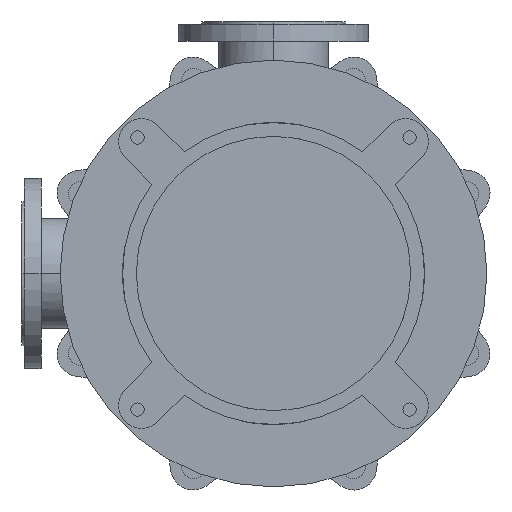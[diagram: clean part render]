
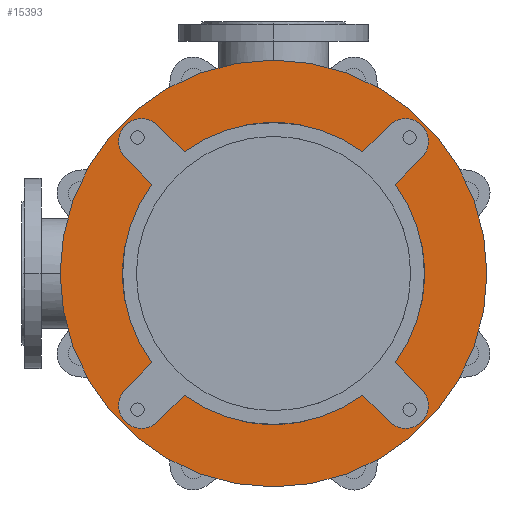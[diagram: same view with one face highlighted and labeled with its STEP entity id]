
A CAD part, front view. The second image highlights one B-rep face of the part: STEP entity #15393.
In plain terms, the highlighted planar face has unit normal (0, -1, 0).
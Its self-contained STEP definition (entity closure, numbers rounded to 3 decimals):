
#4290=CARTESIAN_POINT('',(0.,-25.,0.));
#4291=DIRECTION('',(0.,1.,0.));
#4292=DIRECTION('',(0.592,0.,-0.806));
#4293=AXIS2_PLACEMENT_3D('',#4290,#4291,#4292);
#4308=CARTESIAN_POINT('',(0.,-25.,0.));
#4309=DIRECTION('',(0.,1.,0.));
#4310=DIRECTION('',(0.806,0.,0.592));
#4311=AXIS2_PLACEMENT_3D('',#4308,#4309,#4310);
#4335=CARTESIAN_POINT('',(0.,-25.,0.));
#4336=DIRECTION('',(0.,1.,0.));
#4337=DIRECTION('',(-0.806,0.,-0.592));
#4338=AXIS2_PLACEMENT_3D('',#4335,#4336,#4337);
#4344=CARTESIAN_POINT('',(0.,-25.,0.));
#4345=DIRECTION('',(0.,1.,0.));
#4346=DIRECTION('',(-0.592,0.,0.806));
#4347=AXIS2_PLACEMENT_3D('',#4344,#4345,#4346);
#4522=CARTESIAN_POINT('',(0.,-25.,0.));
#4523=DIRECTION('',(0.,-1.,0.));
#4524=DIRECTION('',(-1.,0.,0.));
#4525=AXIS2_PLACEMENT_3D('',#4522,#4523,#4524);
#4527=CARTESIAN_POINT('',(0.,-25.,0.));
#4528=DIRECTION('',(0.,1.,0.));
#4529=DIRECTION('',(-1.,0.,0.));
#4530=AXIS2_PLACEMENT_3D('',#4527,#4528,#4529);
#4532=CARTESIAN_POINT('',(-173.241,-25.,173.241));
#4533=DIRECTION('',(0.,-1.,0.));
#4534=DIRECTION('',(0.707,0.,0.707));
#4535=AXIS2_PLACEMENT_3D('',#4532,#4533,#4534);
#4537=DIRECTION('',(0.707,0.,-0.707));
#4538=VECTOR('',#4537,49.286);
#4539=CARTESIAN_POINT('',(-194.454,-25.,152.028));
#4540=LINE('',#4539,#4538);
#4541=DIRECTION('',(-0.707,0.,-0.707));
#4542=VECTOR('',#4541,49.286);
#4543=CARTESIAN_POINT('',(-159.604,-25.,-117.178));
#4544=LINE('',#4543,#4542);
#4545=CARTESIAN_POINT('',(-173.241,-25.,-173.241));
#4546=DIRECTION('',(0.,-1.,0.));
#4547=DIRECTION('',(-0.707,0.,0.707));
#4548=AXIS2_PLACEMENT_3D('',#4545,#4546,#4547);
#4550=DIRECTION('',(0.707,0.,0.707));
#4551=VECTOR('',#4550,49.286);
#4552=CARTESIAN_POINT('',(-152.028,-25.,-194.454));
#4553=LINE('',#4552,#4551);
#4554=DIRECTION('',(0.707,0.,-0.707));
#4555=VECTOR('',#4554,49.286);
#4556=CARTESIAN_POINT('',(117.178,-25.,-159.604));
#4557=LINE('',#4556,#4555);
#4558=CARTESIAN_POINT('',(173.241,-25.,-173.241));
#4559=DIRECTION('',(0.,-1.,0.));
#4560=DIRECTION('',(-0.707,0.,-0.707));
#4561=AXIS2_PLACEMENT_3D('',#4558,#4559,#4560);
#4563=DIRECTION('',(-0.707,0.,0.707));
#4564=VECTOR('',#4563,49.286);
#4565=CARTESIAN_POINT('',(194.454,-25.,-152.028));
#4566=LINE('',#4565,#4564);
#4567=DIRECTION('',(0.707,0.,0.707));
#4568=VECTOR('',#4567,49.286);
#4569=CARTESIAN_POINT('',(159.604,-25.,117.178));
#4570=LINE('',#4569,#4568);
#4571=CARTESIAN_POINT('',(173.241,-25.,173.241));
#4572=DIRECTION('',(0.,-1.,0.));
#4573=DIRECTION('',(0.707,0.,-0.707));
#4574=AXIS2_PLACEMENT_3D('',#4571,#4572,#4573);
#4576=DIRECTION('',(-0.707,0.,-0.707));
#4577=VECTOR('',#4576,49.286);
#4578=CARTESIAN_POINT('',(152.028,-25.,194.454));
#4579=LINE('',#4578,#4577);
#4580=DIRECTION('',(-0.707,0.,0.707));
#4581=VECTOR('',#4580,49.286);
#4582=CARTESIAN_POINT('',(-117.178,-25.,159.604));
#4583=LINE('',#4582,#4581);
#8321=CARTESIAN_POINT('',(-280.,-25.,0.));
#8322=CARTESIAN_POINT('',(280.,-25.,0.));
#8323=VERTEX_POINT('',#8321);
#8324=VERTEX_POINT('',#8322);
#8345=CARTESIAN_POINT('',(-194.454,-25.,-152.028));
#8346=CARTESIAN_POINT('',(-152.028,-25.,-194.454));
#8347=VERTEX_POINT('',#8345);
#8348=VERTEX_POINT('',#8346);
#8349=CARTESIAN_POINT('',(-117.178,-25.,-159.604));
#8350=VERTEX_POINT('',#8349);
#8351=CARTESIAN_POINT('',(-159.604,-25.,-117.178));
#8352=VERTEX_POINT('',#8351);
#8361=CARTESIAN_POINT('',(152.028,-25.,-194.454));
#8362=CARTESIAN_POINT('',(194.454,-25.,-152.028));
#8363=VERTEX_POINT('',#8361);
#8364=VERTEX_POINT('',#8362);
#8365=CARTESIAN_POINT('',(159.604,-25.,-117.178));
#8366=VERTEX_POINT('',#8365);
#8367=CARTESIAN_POINT('',(117.178,-25.,-159.604));
#8368=VERTEX_POINT('',#8367);
#8377=CARTESIAN_POINT('',(194.454,-25.,152.028));
#8378=CARTESIAN_POINT('',(152.028,-25.,194.454));
#8379=VERTEX_POINT('',#8377);
#8380=VERTEX_POINT('',#8378);
#8381=CARTESIAN_POINT('',(117.178,-25.,159.604));
#8382=VERTEX_POINT('',#8381);
#8383=CARTESIAN_POINT('',(159.604,-25.,117.178));
#8384=VERTEX_POINT('',#8383);
#8393=CARTESIAN_POINT('',(-152.028,-25.,194.454));
#8394=CARTESIAN_POINT('',(-194.454,-25.,152.028));
#8395=VERTEX_POINT('',#8393);
#8396=VERTEX_POINT('',#8394);
#8397=CARTESIAN_POINT('',(-159.604,-25.,117.178));
#8398=VERTEX_POINT('',#8397);
#8399=CARTESIAN_POINT('',(-117.178,-25.,159.604));
#8400=VERTEX_POINT('',#8399);
#15353=CARTESIAN_POINT('',(0.,-25.,0.));
#15354=DIRECTION('',(0.,-1.,0.));
#15355=DIRECTION('',(-1.,0.,0.));
#15356=AXIS2_PLACEMENT_3D('',#15353,#15354,#15355);
#15357=PLANE('',#15356);
#15359=ORIENTED_EDGE('',*,*,#15358,.F.);
#15361=ORIENTED_EDGE('',*,*,#15360,.T.);
#15362=EDGE_LOOP('',(#15359,#15361));
#15363=FACE_OUTER_BOUND('',#15362,.F.);
#15365=ORIENTED_EDGE('',*,*,#15364,.T.);
#15367=ORIENTED_EDGE('',*,*,#15366,.T.);
#15368=ORIENTED_EDGE('',*,*,#15306,.F.);
#15370=ORIENTED_EDGE('',*,*,#15369,.T.);
#15372=ORIENTED_EDGE('',*,*,#15371,.T.);
#15374=ORIENTED_EDGE('',*,*,#15373,.T.);
#15375=ORIENTED_EDGE('',*,*,#15259,.F.);
#15376=ORIENTED_EDGE('',*,*,#15343,.T.);
#15378=ORIENTED_EDGE('',*,*,#15377,.T.);
#15380=ORIENTED_EDGE('',*,*,#15379,.T.);
#15381=ORIENTED_EDGE('',*,*,#15280,.F.);
#15383=ORIENTED_EDGE('',*,*,#15382,.T.);
#15385=ORIENTED_EDGE('',*,*,#15384,.T.);
#15387=ORIENTED_EDGE('',*,*,#15386,.T.);
#15388=ORIENTED_EDGE('',*,*,#15324,.F.);
#15390=ORIENTED_EDGE('',*,*,#15389,.T.);
#15391=EDGE_LOOP('',(#15365,#15367,#15368,#15370,#15372,#15374,#15375,#15376,
#15378,#15380,#15381,#15383,#15385,#15387,#15388,#15390));
#15392=FACE_BOUND('',#15391,.F.);
#15393=ADVANCED_FACE('',(#15363,#15392),#15357,.T.);
#4294=CIRCLE('',#4293,198.);
#4312=CIRCLE('',#4311,198.);
#4339=CIRCLE('',#4338,198.);
#4348=CIRCLE('',#4347,198.);
#4526=CIRCLE('',#4525,280.);
#4531=CIRCLE('',#4530,280.);
#4536=CIRCLE('',#4535,30.);
#4549=CIRCLE('',#4548,30.);
#4562=CIRCLE('',#4561,30.);
#4575=CIRCLE('',#4574,30.);
#15259=EDGE_CURVE('',#8368,#8350,#4294,.T.);
#15280=EDGE_CURVE('',#8384,#8366,#4312,.T.);
#15306=EDGE_CURVE('',#8352,#8398,#4339,.T.);
#15324=EDGE_CURVE('',#8400,#8382,#4348,.T.);
#15343=EDGE_CURVE('',#8368,#8363,#4557,.T.);
#15358=EDGE_CURVE('',#8323,#8324,#4526,.T.);
#15360=EDGE_CURVE('',#8323,#8324,#4531,.T.);
#15364=EDGE_CURVE('',#8395,#8396,#4536,.T.);
#15366=EDGE_CURVE('',#8396,#8398,#4540,.T.);
#15369=EDGE_CURVE('',#8352,#8347,#4544,.T.);
#15371=EDGE_CURVE('',#8347,#8348,#4549,.T.);
#15373=EDGE_CURVE('',#8348,#8350,#4553,.T.);
#15377=EDGE_CURVE('',#8363,#8364,#4562,.T.);
#15379=EDGE_CURVE('',#8364,#8366,#4566,.T.);
#15382=EDGE_CURVE('',#8384,#8379,#4570,.T.);
#15384=EDGE_CURVE('',#8379,#8380,#4575,.T.);
#15386=EDGE_CURVE('',#8380,#8382,#4579,.T.);
#15389=EDGE_CURVE('',#8400,#8395,#4583,.T.);
